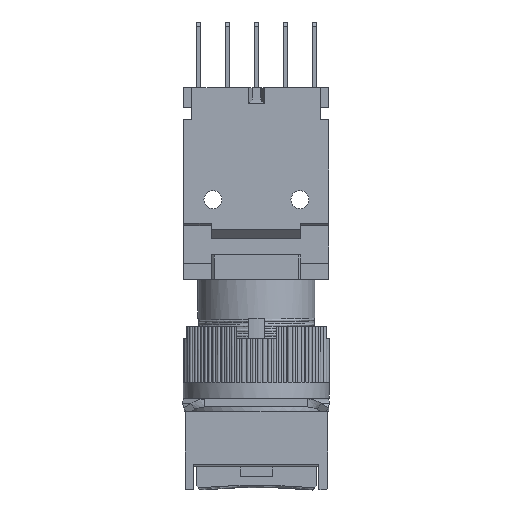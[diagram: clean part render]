
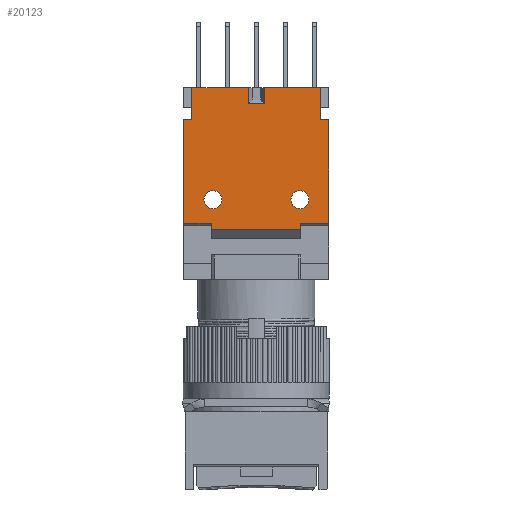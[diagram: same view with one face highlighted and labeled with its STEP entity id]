
A CAD part, front view. The second image highlights one B-rep face of the part: STEP entity #20123.
In plain terms, the highlighted planar face has unit normal (0, -1, 0).
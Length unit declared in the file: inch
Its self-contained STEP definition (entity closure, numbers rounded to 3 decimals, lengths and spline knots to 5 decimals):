
#240=DIRECTION('',(0.,0.,1.));
#241=VECTOR('',#240,4.);
#242=CARTESIAN_POINT('',(17.1,0.,-12.2));
#243=LINE('',#242,#241);
#324=DIRECTION('',(-1.,0.,0.));
#325=VECTOR('',#324,1.);
#326=CARTESIAN_POINT('',(18.1,0.,-12.2));
#327=LINE('',#326,#325);
#340=DIRECTION('',(1.,0.,0.));
#341=VECTOR('',#340,7.05);
#342=CARTESIAN_POINT('',(10.05,0.,-8.2));
#343=LINE('',#342,#341);
#344=DIRECTION('',(0.,0.,-1.));
#345=VECTOR('',#344,12.9);
#346=CARTESIAN_POINT('',(18.1,0.,-12.2));
#347=LINE('',#346,#345);
#348=DIRECTION('',(0.,0.,-1.));
#349=VECTOR('',#348,0.75);
#350=CARTESIAN_POINT('',(14.6,0.,-25.1));
#351=LINE('',#350,#349);
#352=DIRECTION('',(0.,0.,1.));
#353=VECTOR('',#352,12.9);
#354=CARTESIAN_POINT('',(0.,0.,-25.1));
#355=LINE('',#354,#353);
#356=DIRECTION('',(0.,0.,1.));
#357=VECTOR('',#356,4.);
#358=CARTESIAN_POINT('',(1.,0.,-12.2));
#359=LINE('',#358,#357);
#360=DIRECTION('',(1.,0.,0.));
#361=VECTOR('',#360,7.05);
#362=CARTESIAN_POINT('',(1.,0.,-8.2));
#363=LINE('',#362,#361);
#364=CARTESIAN_POINT('',(14.475,0.,-22.165));
#365=DIRECTION('',(0.,-1.,0.));
#366=DIRECTION('',(-1.,0.,0.));
#367=AXIS2_PLACEMENT_3D('',#364,#365,#366);
#369=CARTESIAN_POINT('',(14.475,0.,-22.165));
#370=DIRECTION('',(0.,-1.,0.));
#371=DIRECTION('',(1.,0.,0.));
#372=AXIS2_PLACEMENT_3D('',#369,#370,#371);
#374=CARTESIAN_POINT('',(3.625,0.,-22.165));
#375=DIRECTION('',(0.,-1.,0.));
#376=DIRECTION('',(-1.,0.,0.));
#377=AXIS2_PLACEMENT_3D('',#374,#375,#376);
#379=CARTESIAN_POINT('',(3.625,0.,-22.165));
#380=DIRECTION('',(0.,-1.,0.));
#381=DIRECTION('',(1.,0.,0.));
#382=AXIS2_PLACEMENT_3D('',#379,#380,#381);
#384=DIRECTION('',(0.,0.,-1.));
#385=VECTOR('',#384,2.);
#386=CARTESIAN_POINT('',(10.05,0.,-8.2));
#387=LINE('',#386,#385);
#388=DIRECTION('',(-1.,0.,0.));
#389=VECTOR('',#388,2.);
#390=CARTESIAN_POINT('',(10.05,0.,-10.2));
#391=LINE('',#390,#389);
#400=DIRECTION('',(0.,0.,1.));
#401=VECTOR('',#400,2.);
#402=CARTESIAN_POINT('',(8.05,0.,-10.2));
#403=LINE('',#402,#401);
#424=DIRECTION('',(1.,0.,0.));
#425=VECTOR('',#424,3.5);
#426=CARTESIAN_POINT('',(14.6,0.,-25.1));
#427=LINE('',#426,#425);
#15074=DIRECTION('',(1.,0.,0.));
#15075=VECTOR('',#15074,3.4);
#15076=CARTESIAN_POINT('',(0.,0.,-25.1));
#15077=LINE('',#15076,#15075);
#15086=DIRECTION('',(0.,0.,-1.));
#15087=VECTOR('',#15086,0.75);
#15088=CARTESIAN_POINT('',(3.4,0.,-25.1));
#15089=LINE('',#15088,#15087);
#15094=DIRECTION('',(1.,0.,0.));
#15095=VECTOR('',#15094,11.2);
#15096=CARTESIAN_POINT('',(3.4,0.,-25.85));
#15097=LINE('',#15096,#15095);
#15142=DIRECTION('',(-1.,0.,0.));
#15143=VECTOR('',#15142,1.);
#15144=CARTESIAN_POINT('',(1.,0.,-12.2));
#15145=LINE('',#15144,#15143);
#16758=CARTESIAN_POINT('',(18.1,0.,-25.1));
#16759=VERTEX_POINT('',#16758);
#16760=CARTESIAN_POINT('',(18.1,0.,-12.2));
#16761=VERTEX_POINT('',#16760);
#16800=CARTESIAN_POINT('',(17.1,0.,-8.2));
#16801=VERTEX_POINT('',#16800);
#16802=CARTESIAN_POINT('',(10.05,0.,-8.2));
#16803=VERTEX_POINT('',#16802);
#16808=CARTESIAN_POINT('',(8.05,0.,-8.2));
#16809=VERTEX_POINT('',#16808);
#16810=CARTESIAN_POINT('',(1.,0.,-8.2));
#16811=VERTEX_POINT('',#16810);
#17528=CARTESIAN_POINT('',(14.6,0.,-25.1));
#17529=CARTESIAN_POINT('',(14.6,0.,-25.85));
#17530=VERTEX_POINT('',#17528);
#17531=VERTEX_POINT('',#17529);
#17636=CARTESIAN_POINT('',(0.,0.,-12.2));
#17637=VERTEX_POINT('',#17636);
#17638=CARTESIAN_POINT('',(0.,0.,-25.1));
#17640=VERTEX_POINT('',#17638);
#17665=CARTESIAN_POINT('',(1.,0.,-12.2));
#17667=VERTEX_POINT('',#17665);
#17686=CARTESIAN_POINT('',(13.35,0.,-22.165));
#17687=CARTESIAN_POINT('',(15.6,0.,-22.165));
#17688=VERTEX_POINT('',#17686);
#17689=VERTEX_POINT('',#17687);
#17690=CARTESIAN_POINT('',(2.5,0.,-22.165));
#17691=CARTESIAN_POINT('',(4.75,0.,-22.165));
#17692=VERTEX_POINT('',#17690);
#17693=VERTEX_POINT('',#17691);
#17694=CARTESIAN_POINT('',(10.05,0.,-10.2));
#17695=VERTEX_POINT('',#17694);
#17696=CARTESIAN_POINT('',(17.1,0.,-12.2));
#17697=VERTEX_POINT('',#17696);
#17698=CARTESIAN_POINT('',(3.4,0.,-25.85));
#17699=VERTEX_POINT('',#17698);
#17700=CARTESIAN_POINT('',(3.4,0.,-25.1));
#17701=VERTEX_POINT('',#17700);
#17702=CARTESIAN_POINT('',(8.05,0.,-10.2));
#17703=VERTEX_POINT('',#17702);
#20078=CARTESIAN_POINT('',(9.05,0.,-17.025));
#20079=DIRECTION('',(0.,1.,0.));
#20080=DIRECTION('',(1.,0.,0.));
#20081=AXIS2_PLACEMENT_3D('',#20078,#20079,#20080);
#20082=PLANE('',#20081);
#20084=ORIENTED_EDGE('',*,*,#20083,.F.);
#20085=ORIENTED_EDGE('',*,*,#19770,.T.);
#20086=ORIENTED_EDGE('',*,*,#19935,.F.);
#20087=ORIENTED_EDGE('',*,*,#20070,.F.);
#20088=ORIENTED_EDGE('',*,*,#19474,.T.);
#20090=ORIENTED_EDGE('',*,*,#20089,.F.);
#20092=ORIENTED_EDGE('',*,*,#20091,.T.);
#20094=ORIENTED_EDGE('',*,*,#20093,.F.);
#20096=ORIENTED_EDGE('',*,*,#20095,.F.);
#20098=ORIENTED_EDGE('',*,*,#20097,.F.);
#20099=ORIENTED_EDGE('',*,*,#19607,.T.);
#20101=ORIENTED_EDGE('',*,*,#20100,.F.);
#20103=ORIENTED_EDGE('',*,*,#20102,.T.);
#20104=ORIENTED_EDGE('',*,*,#19778,.T.);
#20106=ORIENTED_EDGE('',*,*,#20105,.F.);
#20108=ORIENTED_EDGE('',*,*,#20107,.F.);
#20109=EDGE_LOOP('',(#20084,#20085,#20086,#20087,#20088,#20090,#20092,#20094,
#20096,#20098,#20099,#20101,#20103,#20104,#20106,#20108));
#20110=FACE_OUTER_BOUND('',#20109,.F.);
#20112=ORIENTED_EDGE('',*,*,#20111,.T.);
#20114=ORIENTED_EDGE('',*,*,#20113,.T.);
#20115=EDGE_LOOP('',(#20112,#20114));
#20116=FACE_BOUND('',#20115,.F.);
#20118=ORIENTED_EDGE('',*,*,#20117,.T.);
#20120=ORIENTED_EDGE('',*,*,#20119,.T.);
#20121=EDGE_LOOP('',(#20118,#20120));
#20122=FACE_BOUND('',#20121,.F.);
#20123=ADVANCED_FACE('',(#20110,#20116,#20122),#20082,.F.);
#368=CIRCLE('',#367,1.125);
#373=CIRCLE('',#372,1.125);
#378=CIRCLE('',#377,1.125);
#383=CIRCLE('',#382,1.125);
#19474=EDGE_CURVE('',#16761,#16759,#347,.T.);
#19607=EDGE_CURVE('',#17640,#17637,#355,.T.);
#19770=EDGE_CURVE('',#16803,#16801,#343,.T.);
#19778=EDGE_CURVE('',#16811,#16809,#363,.T.);
#19935=EDGE_CURVE('',#17697,#16801,#243,.T.);
#20070=EDGE_CURVE('',#16761,#17697,#327,.T.);
#20083=EDGE_CURVE('',#16803,#17695,#387,.T.);
#20089=EDGE_CURVE('',#17530,#16759,#427,.T.);
#20091=EDGE_CURVE('',#17530,#17531,#351,.T.);
#20093=EDGE_CURVE('',#17699,#17531,#15097,.T.);
#20095=EDGE_CURVE('',#17701,#17699,#15089,.T.);
#20097=EDGE_CURVE('',#17640,#17701,#15077,.T.);
#20100=EDGE_CURVE('',#17667,#17637,#15145,.T.);
#20102=EDGE_CURVE('',#17667,#16811,#359,.T.);
#20105=EDGE_CURVE('',#17703,#16809,#403,.T.);
#20107=EDGE_CURVE('',#17695,#17703,#391,.T.);
#20111=EDGE_CURVE('',#17688,#17689,#368,.T.);
#20113=EDGE_CURVE('',#17689,#17688,#373,.T.);
#20117=EDGE_CURVE('',#17692,#17693,#378,.T.);
#20119=EDGE_CURVE('',#17693,#17692,#383,.T.);
